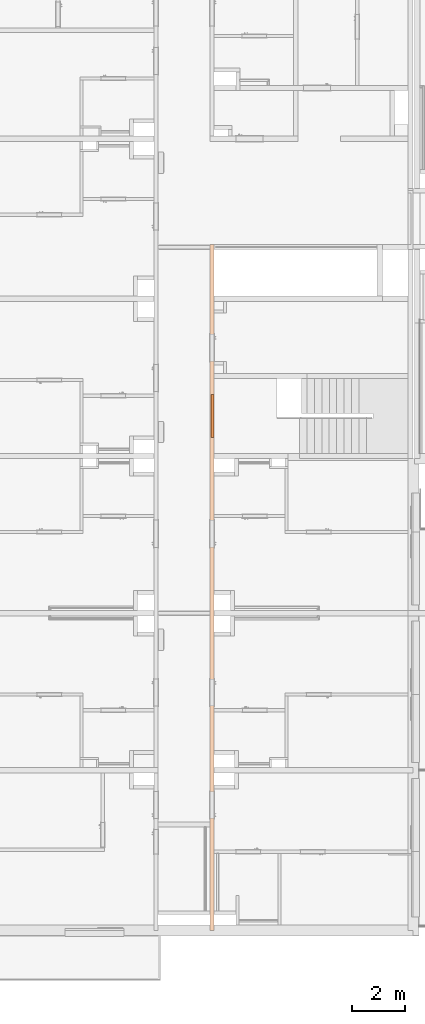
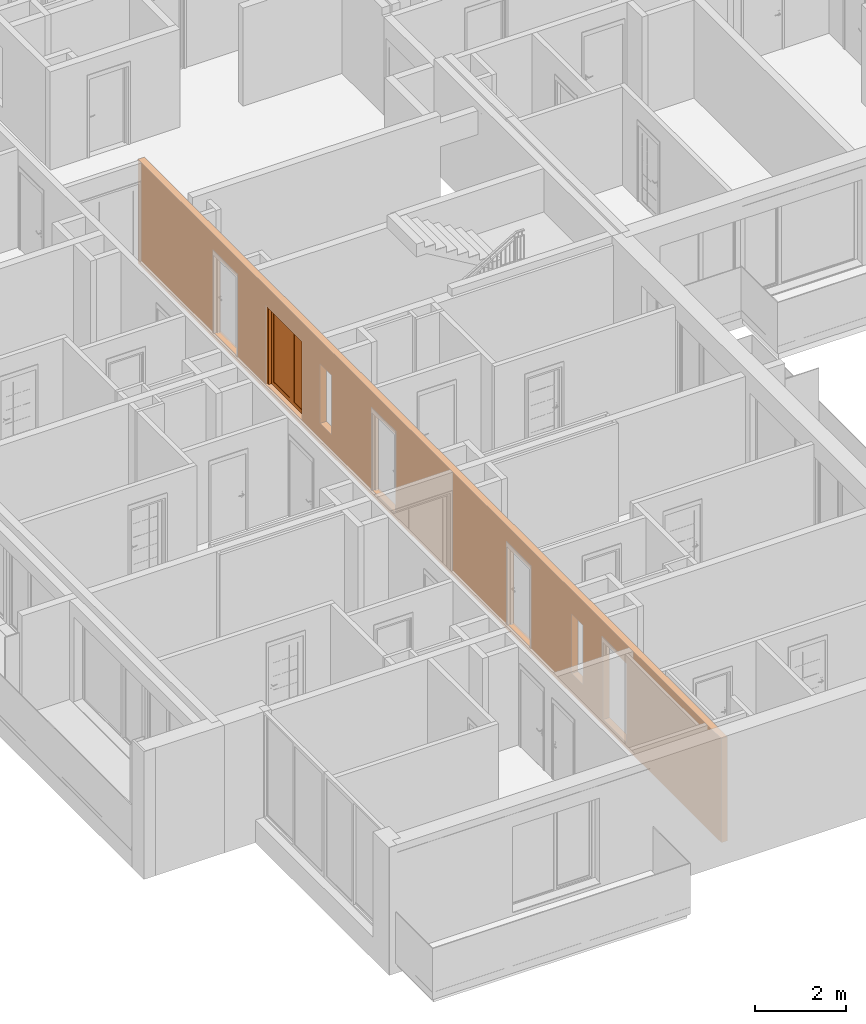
# One storey, part 13 of 67: 1 proxy, 7 openings, plus 1 element that does not belong to this part.
"""IFC2X3 building model written with IfcOpenShell, lengths in millimetres."""

from ifc_helpers import new_model, entity, si_unit, converted_unit, derived_unit, money_unit, direction, frame, origin_with_axes, origin_2d_with_axis, place, context, subcontext, project, spatial, rectangle, extrude, open_shell, faceted_brep, surface_model, source, transform, mapped, material, type_object, element, fill, save


model = new_model("IFC2X3")

# Units and contexts
model_context = context("Model", 3, precision=0.01, world=origin_with_axes(), true_north=direction((0.34421633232, 0.938890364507)))
body_context = subcontext(model_context, "Body", "Model", "MODEL_VIEW")
ifc_project = project(units=[si_unit("LENGTHUNIT", "METRE", prefix="MILLI"), si_unit("AREAUNIT", "SQUARE_METRE"), si_unit("VOLUMEUNIT", "CUBIC_METRE"), converted_unit("PLANEANGLEUNIT", "DEGREE", entity("IfcPlaneAngleMeasure", 0.0174532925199), si_unit("PLANEANGLEUNIT", "RADIAN"), dimensions=[0, 0, 0, 0, 0, 0, 0]), si_unit("SOLIDANGLEUNIT", "STERADIAN"), money_unit("USD"), converted_unit("TIMEUNIT", "Year", entity("IfcTimeMeasure", 31556926.0), si_unit("TIMEUNIT", "SECOND"), dimensions=[0, 0, 1, 0, 0, 0, 0]), si_unit("MASSUNIT", "GRAM", prefix="KILO"), si_unit("THERMODYNAMICTEMPERATUREUNIT", "DEGREE_CELSIUS"), si_unit("LUMINOUSINTENSITYUNIT", "LUMEN"), si_unit("ENERGYUNIT", "JOULE", prefix="MEGA"), derived_unit("THERMALCONDUCTANCEUNIT", [(si_unit("POWERUNIT", "WATT"), 1), (si_unit("LENGTHUNIT", "METRE"), -1), (si_unit("THERMODYNAMICTEMPERATUREUNIT", "KELVIN"), -1)]), derived_unit("SPECIFICHEATCAPACITYUNIT", [(si_unit("ENERGYUNIT", "JOULE"), 1), (si_unit("MASSUNIT", "GRAM", prefix="KILO"), -1), (si_unit("THERMODYNAMICTEMPERATUREUNIT", "KELVIN"), -1)]), derived_unit("MASSDENSITYUNIT", [(si_unit("MASSUNIT", "GRAM", prefix="KILO"), 1), (si_unit("VOLUMEUNIT", "CUBIC_METRE"), -1)])], contexts=[model_context])

# Site, building, storey
site_placement = place(None, origin_with_axes())
site = spatial("IfcSite", under=ifc_project, at=site_placement, Name="USTRONIE MORSKIE", CompositionType="ELEMENT")
building_placement = place(site_placement, origin_with_axes())
building = spatial("IfcBuilding", under=site, at=building_placement, Name="Budynek", CompositionType="ELEMENT")
storey_placement = place(building_placement, frame((0.0, 0.0, 4000.0), z_axis=(0.0, 0.0, 1.0), x_axis=(1.0, 0.0, 0.0)))
storey = spatial("IfcBuildingStorey", under=building, at=storey_placement, Name="PIĘTRO 1", CompositionType="ELEMENT", Elevation=4000.0)

# Proxies, openings
ifc_material = material(Name="Beton konstrukcyjny B25")
building_element_proxy_type_1 = type_object("IfcBuildingElementProxyType", Name="Beton konstrukcyjny B25 160", PredefinedType="NOTDEFINED")
proxy_1_placement = place(storey_placement, frame((359617.920919, 734831.198985, -160.0), z_axis=(0.0, 0.0, 1.0), x_axis=(0.0, -1.0, 0.0)))
proxy_1 = element("IfcBuildingElementProxy", 1, at=proxy_1_placement, inside=storey, type_object=building_element_proxy_type_1, material=ifc_material, Name="SW-01", context=body_context, shape_type="Brep", body=[
    faceted_brep([(0.0, 80.0, 0.0), (25729.9999491, 80.0, 0.0), (25729.9999491, -80.0, 0.0), (0.0, -80.0, 0.0), (0.0, 80.0, 2800.0), (25729.9999491, 80.0, 2800.0), (25729.9999491, -80.0, 2800.0), (0.0, -80.0, 2800.0)], [[[0, 1, 2, 3]], [[4, 5, 1, 0]], [[6, 2, 1, 5]], [[3, 2, 6, 7]], [[7, 4, 0, 3]], [[7, 6, 5, 4]]]),
])
opening_1_placement = place(proxy_1_placement, frame((16809.9552113, 0.0, 160.0), z_axis=(0.0, 0.0, 1.0), x_axis=(1.0, 0.0, 0.0)))
element("IfcOpeningElement", 2, at=opening_1_placement, cuts=proxy_1, Name="Dw.1", context=body_context, shape_type="SweptSolid", body=[
    extrude(rectangle(XDim=1020.0, YDim=2120.0, at=origin_2d_with_axis()), frame((0.0, -160.0, 1060.0), z_axis=(0.0, 1.0, 0.0), x_axis=(1.0, 0.0, 0.0)), (0.0, 0.0, 1.0), 480.0),
    extrude(rectangle(XDim=1094.0, YDim=2227.0, at=origin_2d_with_axis()), frame((0.0, -80.0, 1113.5), z_axis=(0.0, 1.0, 0.0), x_axis=(1.0, 0.0, 0.0)), (0.0, 0.0, -1.0), 160.0),
    extrude(rectangle(XDim=1094.0, YDim=2227.0, at=origin_2d_with_axis()), frame((0.0, 80.0, 1113.5), z_axis=(0.0, -1.0, 0.0), x_axis=(1.0, 0.0, 0.0)), (0.0, 0.0, -1.0), 160.0),
])
opening_2_placement = place(proxy_1_placement, frame((21029.9999495, 0.0, 160.0), z_axis=(0.0, 0.0, 1.0), x_axis=(1.0, 0.0, 0.0)))
element("IfcOpeningElement", 3, at=opening_2_placement, cuts=proxy_1, Name="Dw.1", context=body_context, shape_type="SweptSolid", body=[
    extrude(rectangle(XDim=1020.0, YDim=2120.0, at=origin_2d_with_axis()), frame((0.0, -160.0, 1060.0), z_axis=(0.0, -1.0, 0.0), x_axis=(-1.0, 0.0, 0.0)), (0.0, 0.0, -1.0), 480.0),
    extrude(rectangle(XDim=1094.0, YDim=2227.0, at=origin_2d_with_axis()), frame((0.0, -80.0, 1113.5), z_axis=(0.0, -1.0, 0.0), x_axis=(-1.0, 0.0, 0.0)), (0.0, 0.0, 1.0), 160.0),
    extrude(rectangle(XDim=1094.0, YDim=2227.0, at=origin_2d_with_axis()), frame((0.0, 80.0, 1113.5), z_axis=(0.0, 1.0, 0.0), x_axis=(-1.0, 0.0, 0.0)), (0.0, 0.0, 1.0), 160.0),
])
opening_3_placement = place(proxy_1_placement, frame((3869.9999533, 0.0, 160.0), z_axis=(0.0, 0.0, 1.0), x_axis=(1.0, 0.0, 0.0)))
element("IfcOpeningElement", 4, at=opening_3_placement, cuts=proxy_1, Name="Dw.2", context=body_context, shape_type="SweptSolid", body=[
    extrude(rectangle(XDim=1020.0, YDim=2120.0, at=origin_2d_with_axis()), frame((0.0, -160.0, 1060.0), z_axis=(0.0, 1.0, 0.0), x_axis=(1.0, 0.0, 0.0)), (0.0, 0.0, 1.0), 480.0),
    extrude(rectangle(XDim=1094.0, YDim=2227.0, at=origin_2d_with_axis()), frame((0.0, -80.0, 1113.5), z_axis=(0.0, 1.0, 0.0), x_axis=(1.0, 0.0, 0.0)), (0.0, 0.0, -1.0), 160.0),
    extrude(rectangle(XDim=1094.0, YDim=2227.0, at=origin_2d_with_axis()), frame((0.0, 80.0, 1113.5), z_axis=(0.0, -1.0, 0.0), x_axis=(1.0, 0.0, 0.0)), (0.0, 0.0, -1.0), 160.0),
])
opening_4_placement = place(proxy_1_placement, frame((6429.99994909, 0.0, 160.0), z_axis=(0.0, 0.0, 1.0), x_axis=(1.0, 0.0, 0.0)))
opening_4 = element("IfcOpeningElement", 5, at=opening_4_placement, cuts=proxy_1, Name="D2", context=body_context, shape_type="SweptSolid", body=[
    extrude(rectangle(XDim=1620.0, YDim=2120.0, at=origin_2d_with_axis()), frame((0.0, -160.0, 1060.0), z_axis=(0.0, -1.0, 0.0), x_axis=(-1.0, 0.0, 0.0)), (0.0, 0.0, -1.0), 480.0),
])
opening_5_placement = place(proxy_1_placement, frame((10850.0446869, 0.0, 160.0), z_axis=(0.0, 0.0, 1.0), x_axis=(1.0, 0.0, 0.0)))
element("IfcOpeningElement", 6, at=opening_5_placement, cuts=proxy_1, Name="Dw.1", context=body_context, shape_type="SweptSolid", body=[
    extrude(rectangle(XDim=1020.0, YDim=2120.0, at=origin_2d_with_axis()), frame((0.0, -160.0, 1060.0), z_axis=(0.0, -1.0, 0.0), x_axis=(-1.0, 0.0, 0.0)), (0.0, 0.0, -1.0), 480.0),
    extrude(rectangle(XDim=1094.0, YDim=2227.0, at=origin_2d_with_axis()), frame((0.0, -80.0, 1113.5), z_axis=(0.0, -1.0, 0.0), x_axis=(-1.0, 0.0, 0.0)), (0.0, 0.0, 1.0), 160.0),
    extrude(rectangle(XDim=1094.0, YDim=2227.0, at=origin_2d_with_axis()), frame((0.0, 80.0, 1113.5), z_axis=(0.0, 1.0, 0.0), x_axis=(-1.0, 0.0, 0.0)), (0.0, 0.0, 1.0), 160.0),
])
opening_6_placement = place(proxy_1_placement, frame((8280.00085724, 0.0, 560.0), z_axis=(0.0, 0.0, 1.0), x_axis=(1.0, 0.0, 0.0)))
element("IfcOpeningElement", 7, at=opening_6_placement, cuts=proxy_1, Name="R.01", context=body_context, shape_type="SweptSolid", body=[
    extrude(rectangle(XDim=500.001816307, YDim=1600.0, at=origin_2d_with_axis()), frame((0.0, -80.0, 800.0), z_axis=(0.0, 1.0, 0.0), x_axis=(1.0, 0.0, 0.0)), (0.0, 0.0, -1.0), 160.0),
    extrude(rectangle(XDim=500.001816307, YDim=1600.0, at=origin_2d_with_axis()), frame((0.0, -80.0, 800.0), z_axis=(0.0, -1.0, 0.0), x_axis=(1.0, 0.0, 0.0)), (0.0, 0.0, -1.0), 160.0),
])
opening_7_placement = place(proxy_1_placement, frame((19380.0004126, 0.0, 560.0), z_axis=(0.0, 0.0, 1.0), x_axis=(1.0, 0.0, 0.0)))
element("IfcOpeningElement", 8, at=opening_7_placement, cuts=proxy_1, Name="R.01", context=body_context, shape_type="SweptSolid", body=[
    extrude(rectangle(XDim=500.001816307, YDim=1600.0, at=origin_2d_with_axis()), frame((0.0, -80.0, 800.0), z_axis=(0.0, 1.0, 0.0), x_axis=(1.0, 0.0, 0.0)), (0.0, 0.0, -1.0), 160.0),
    extrude(rectangle(XDim=500.001816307, YDim=1600.0, at=origin_2d_with_axis()), frame((0.0, -80.0, 800.0), z_axis=(0.0, -1.0, 0.0), x_axis=(1.0, 0.0, 0.0)), (0.0, 0.0, -1.0), 160.0),
])
building_element_proxy_type_2 = type_object("IfcBuildingElementProxyType", Name="Drzwi podwójne 23", PredefinedType="NOTDEFINED")
shared_shape = source(origin_with_axes(), body_context, "Body", "SurfaceModel", [
    faceted_brep([(750.0, -40.0, 0.0), (750.0, -115.0, 0.0), (750.0, -115.0, 2050.0), (750.0, -40.0, 2050.0), (762.0, -40.0, 0.0), (762.0, 0.0, 0.0), (810.0, 0.0, 0.0), (810.0, -115.0, 0.0), (810.0, -115.0, 2050.0), (762.0, -40.0, 2050.0), (810.0, 0.0, 2050.0), (762.0, 0.0, 2050.0)], [[[0, 1, 2, 3]], [[4, 5, 6, 7, 1, 0]], [[1, 7, 8, 2]], [[9, 3, 2, 8, 10, 11]], [[9, 4, 0, 3]], [[11, 5, 4, 9]], [[11, 10, 6, 5]], [[6, 10, 8, 7]]]),
    faceted_brep([(-762.0, -40.0, 2050.0), (-762.0, 0.0, 2050.0), (-810.0, 0.0, 2050.0), (-810.0, -115.0, 2050.0), (-750.0, -115.0, 2050.0), (-750.0, -40.0, 2050.0), (-762.0, -40.0, 0.0), (-762.0, 0.0, 0.0), (-810.0, 0.0, 0.0), (-810.0, -115.0, 0.0), (-750.0, -115.0, 0.0), (-750.0, -40.0, 0.0)], [[[0, 1, 2, 3, 4, 5]], [[0, 6, 7, 1]], [[7, 8, 2, 1]], [[2, 8, 9, 3]], [[3, 9, 10, 4]], [[5, 4, 10, 11]], [[5, 11, 6, 0]], [[6, 11, 10, 9, 8, 7]]]),
    faceted_brep([(762.0, 0.0, 2062.0), (-762.0, 0.0, 2062.0), (-762.0, 0.0, 2050.0), (-810.0, 0.0, 2050.0), (-810.0, 0.0, 2120.0), (810.0, 0.0, 2120.0), (810.0, 0.0, 2050.0), (762.0, 0.0, 2050.0), (762.0, -40.0, 2062.0), (-762.0, -40.0, 2062.0), (-762.0, -40.0, 2050.0), (-750.0, -40.0, 2050.0), (-750.0, -115.0, 2050.0), (-810.0, -115.0, 2050.0), (-810.0, -115.0, 2120.0), (810.0, -115.0, 2120.0), (810.0, -115.0, 2050.0), (762.0, -40.0, 2050.0), (750.0, -115.0, 2050.0), (750.0, -40.0, 2050.0)], [[[0, 1, 2, 3, 4, 5, 6, 7]], [[0, 8, 9, 1]], [[1, 9, 10, 2]], [[10, 11, 12, 13, 3, 2]], [[4, 3, 13, 14]], [[5, 4, 14, 15]], [[6, 5, 15, 16]], [[17, 7, 6, 16, 18, 19]], [[7, 17, 8, 0]], [[10, 9, 8, 17, 19, 11]], [[19, 18, 12, 11]], [[12, 18, 16, 15, 14, 13]]]),
    faceted_brep([(-762.0, 0.0, 100.0), (-662.0, 0.0, 100.0), (-662.0, -40.0, 100.0), (-762.0, -40.0, 100.0), (-762.0, 0.0, 1962.0), (-662.0, 0.0, 1962.0), (-662.0, -40.0, 1962.0), (-762.0, -40.0, 1962.0)], [[[0, 1, 2, 3]], [[0, 4, 5, 1]], [[1, 5, 6, 2]], [[3, 2, 6, 7]], [[4, 0, 3, 7]], [[5, 4, 7, 6]]]),
    faceted_brep([(138.0, 0.0, 100.0), (138.0, 0.0, 1962.0), (138.0, -40.0, 1962.0), (138.0, -40.0, 100.0), (38.0, 0.0, 100.0), (38.0, 0.0, 1962.0), (38.0, -40.0, 1962.0), (38.0, -40.0, 100.0)], [[[0, 1, 2, 3]], [[0, 4, 5, 1]], [[1, 5, 6, 2]], [[3, 2, 6, 7]], [[4, 0, 3, 7]], [[5, 4, 7, 6]]]),
    faceted_brep([(-762.0, 0.0, 0.0), (138.0, 0.0, 0.0), (138.0, -40.0, 0.0), (-762.0, -40.0, 0.0), (-762.0, 0.0, 100.0), (-662.0, 0.0, 100.0), (38.0, 0.0, 100.0), (138.0, 0.0, 100.0), (138.0, -40.0, 100.0), (38.0, -40.0, 100.0), (-662.0, -40.0, 100.0), (-762.0, -40.0, 100.0)], [[[0, 1, 2, 3]], [[0, 4, 5, 6, 7, 1]], [[1, 7, 8, 2]], [[3, 2, 8, 9, 10, 11]], [[4, 0, 3, 11]], [[5, 4, 11, 10]], [[6, 5, 10, 9]], [[7, 6, 9, 8]]]),
    faceted_brep([(-762.0, 0.0, 2062.0), (-762.0, 0.0, 1962.0), (-762.0, -40.0, 1962.0), (-762.0, -40.0, 2062.0), (138.0, 0.0, 2062.0), (138.0, 0.0, 1962.0), (38.0, 0.0, 1962.0), (-662.0, 0.0, 1962.0), (-662.0, -40.0, 1962.0), (38.0, -40.0, 1962.0), (138.0, -40.0, 1962.0), (138.0, -40.0, 2062.0)], [[[0, 1, 2, 3]], [[0, 4, 5, 6, 7, 1]], [[1, 7, 8, 2]], [[3, 2, 8, 9, 10, 11]], [[4, 0, 3, 11]], [[5, 4, 11, 10]], [[6, 5, 10, 9]], [[7, 6, 9, 8]]]),
    surface_model("IfcShellBasedSurfaceModel", [(-662.0, -14.0, 100.0), (-662.0, -14.0, 1962.0), (38.0, -14.0, 1962.0), (38.0, -14.0, 100.0)], [open_shell([[[0, 1, 2, 3]]])]),
    surface_model("IfcShellBasedSurfaceModel", [(-662.0, -26.0, 100.0), (38.0, -26.0, 100.0), (38.0, -26.0, 1962.0), (-662.0, -26.0, 1962.0)], [open_shell([[[0, 1, 2, 3]]])]),
    faceted_brep([(762.0, 0.0, 100.0), (762.0, -40.0, 100.0), (662.0, -40.0, 100.0), (662.0, 0.0, 100.0), (762.0, 0.0, 1962.0), (762.0, -40.0, 1962.0), (662.0, -40.0, 1962.0), (662.0, 0.0, 1962.0)], [[[0, 1, 2, 3]], [[4, 5, 1, 0]], [[1, 5, 6, 2]], [[3, 2, 6, 7]], [[0, 3, 7, 4]], [[7, 6, 5, 4]]]),
    faceted_brep([(138.0, 0.0, 100.0), (138.0, -40.0, 100.0), (138.0, -40.0, 1962.0), (138.0, 0.0, 1962.0), (238.0, 0.0, 100.0), (238.0, -40.0, 100.0), (238.0, -40.0, 1962.0), (238.0, 0.0, 1962.0)], [[[0, 1, 2, 3]], [[4, 5, 1, 0]], [[1, 5, 6, 2]], [[3, 2, 6, 7]], [[0, 3, 7, 4]], [[7, 6, 5, 4]]]),
    faceted_brep([(762.0, 0.0, 0.0), (762.0, -40.0, 0.0), (138.0, -40.0, 0.0), (138.0, 0.0, 0.0), (762.0, 0.0, 100.0), (762.0, -40.0, 100.0), (662.0, -40.0, 100.0), (238.0, -40.0, 100.0), (138.0, -40.0, 100.0), (138.0, 0.0, 100.0), (238.0, 0.0, 100.0), (662.0, 0.0, 100.0)], [[[0, 1, 2, 3]], [[4, 5, 1, 0]], [[1, 5, 6, 7, 8, 2]], [[3, 2, 8, 9]], [[0, 3, 9, 10, 11, 4]], [[11, 6, 5, 4]], [[10, 7, 6, 11]], [[9, 8, 7, 10]]]),
    faceted_brep([(762.0, 0.0, 2062.0), (762.0, -40.0, 2062.0), (762.0, -40.0, 1962.0), (762.0, 0.0, 1962.0), (138.0, 0.0, 2062.0), (138.0, -40.0, 2062.0), (138.0, -40.0, 1962.0), (238.0, -40.0, 1962.0), (662.0, -40.0, 1962.0), (662.0, 0.0, 1962.0), (238.0, 0.0, 1962.0), (138.0, 0.0, 1962.0)], [[[0, 1, 2, 3]], [[4, 5, 1, 0]], [[1, 5, 6, 7, 8, 2]], [[3, 2, 8, 9]], [[0, 3, 9, 10, 11, 4]], [[11, 6, 5, 4]], [[10, 7, 6, 11]], [[9, 8, 7, 10]]]),
    surface_model("IfcShellBasedSurfaceModel", [(662.0, -14.0, 100.0), (238.0, -14.0, 100.0), (238.0, -14.0, 1962.0), (662.0, -14.0, 1962.0)], [open_shell([[[0, 1, 2, 3]]])]),
    surface_model("IfcShellBasedSurfaceModel", [(662.0, -26.0, 100.0), (662.0, -26.0, 1962.0), (238.0, -26.0, 1962.0), (238.0, -26.0, 100.0)], [open_shell([[[0, 1, 2, 3]]])]),
])
proxy_2_placement = place(opening_4_placement, frame((-750.0, 0.0, 0.0), z_axis=(0.0, 0.0, 1.0), x_axis=(1.0, 0.0, 0.0)))
proxy_2 = element("IfcBuildingElementProxy", 9, at=proxy_2_placement, inside=storey, type_object=building_element_proxy_type_2, Name="D2", context=body_context, shape_type="MappedRepresentation", body=[
    mapped(shared_shape, transform((750.0, 80.0, 0.0))),
])
fill(opening_4, proxy_2)

save(model, "model.ifc")
